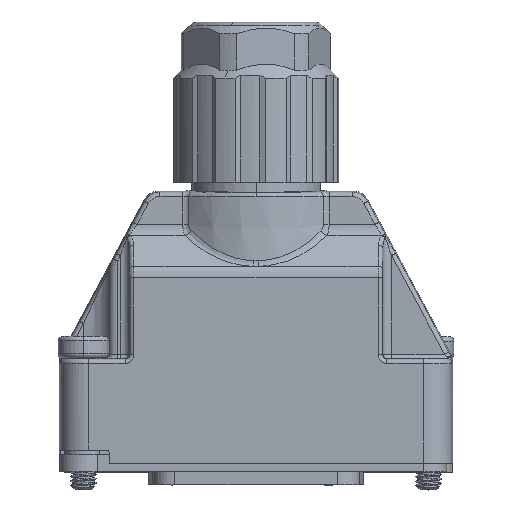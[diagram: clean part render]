
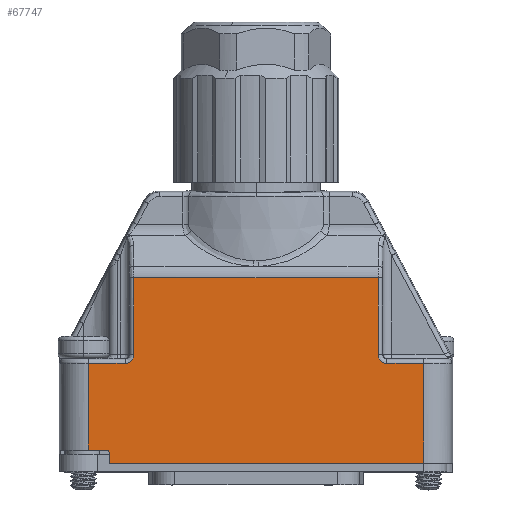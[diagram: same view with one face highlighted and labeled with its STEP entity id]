
A CAD part, top view. The second image highlights one B-rep face of the part: STEP entity #67747.
In plain terms, the highlighted planar face has unit normal (0, 0, 1).
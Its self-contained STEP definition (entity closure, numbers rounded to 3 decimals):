
#1423 = CARTESIAN_POINT ( 'NONE',  ( 81.502, 152.092, 126.657 ) ) ;
#2200 = CARTESIAN_POINT ( 'NONE',  ( 81.214, 152.804, 126.657 ) ) ;
#2245 = LINE ( 'NONE', #33027, #48823 ) ;
#3648 = EDGE_CURVE ( 'NONE', #72495, #42526, #64959, .T. ) ;
#3973 = AXIS2_PLACEMENT_3D ( 'NONE', #57565, #14254, #39241 ) ;
#4146 = CARTESIAN_POINT ( 'NONE',  ( 48.131, 151.804, 126.657 ) ) ;
#4835 = CARTESIAN_POINT ( 'NONE',  ( 53.043, 152.092, 126.657 ) ) ;
#5355 = CARTESIAN_POINT ( 'NONE',  ( 52.462, 151.804, 126.657 ) ) ;
#5399 = EDGE_CURVE ( 'NONE', #77398, #5451, #2245, .T. ) ;
#5451 = VERTEX_POINT ( 'NONE', #10191 ) ;
#5759 = LINE ( 'NONE', #51603, #20910 ) ;
#7106 = CARTESIAN_POINT ( 'NONE',  ( 53.331, 140.406, 126.657 ) ) ;
#10191 = CARTESIAN_POINT ( 'NONE',  ( 50.472, 141.906, 126.657 ) ) ;
#10420 = VERTEX_POINT ( 'NONE', #22370 ) ;
#10506 = EDGE_CURVE ( 'NONE', #56969, #61258, #66217, .T. ) ;
#10706 = EDGE_CURVE ( 'NONE', #48770, #10420, #35413, .T. ) ;
#11193 = CARTESIAN_POINT ( 'NONE',  ( 50.472, 141.906, 126.657 ) ) ;
#13501 = CARTESIAN_POINT ( 'NONE',  ( 52.331, 151.804, 126.657 ) ) ;
#13880 = CARTESIAN_POINT ( 'NONE',  ( 81.254, 152.477, 126.657 ) ) ;
#14254 = DIRECTION ( 'NONE',  ( 0., 0., -1. ) ) ;
#14376 = ORIENTED_EDGE ( 'NONE', *, *, #37586, .F. ) ;
#14405 = CARTESIAN_POINT ( 'NONE',  ( 81.655, 151.968, 126.657 ) ) ;
#16821 = LINE ( 'NONE', #24352, #58658 ) ;
#17357 = VECTOR ( 'NONE', #41254, 1000. ) ;
#18078 = DIRECTION ( 'NONE',  ( -1., 0., 0. ) ) ;
#18824 = LINE ( 'NONE', #32713, #67312 ) ;
#19198 = VECTOR ( 'NONE', #18078, 1000. ) ;
#20007 = CARTESIAN_POINT ( 'NONE',  ( 81.887, 151.844, 126.657 ) ) ;
#20907 = PLANE ( 'NONE',  #3973 ) ;
#20910 = VECTOR ( 'NONE', #32730, 1000. ) ;
#22370 = CARTESIAN_POINT ( 'NONE',  ( 50.551, 140.406, 126.657 ) ) ;
#23194 = DIRECTION ( 'NONE',  ( 1., 0., 0. ) ) ;
#24352 = CARTESIAN_POINT ( 'NONE',  ( 67.276, 161.598, 126.657 ) ) ;
#24522 = CARTESIAN_POINT ( 'NONE',  ( 48.131, 140.406, 126.657 ) ) ;
#25627 = ORIENTED_EDGE ( 'NONE', *, *, #10706, .F. ) ;
#25761 = CARTESIAN_POINT ( 'NONE',  ( 81.214, 161.598, 126.657 ) ) ;
#26612 = CARTESIAN_POINT ( 'NONE',  ( 53.331, 152.804, 126.657 ) ) ;
#28323 = LINE ( 'NONE', #78067, #40701 ) ;
#29015 = CARTESIAN_POINT ( 'NONE',  ( 52.89, 151.968, 126.657 ) ) ;
#29418 = ORIENTED_EDGE ( 'NONE', *, *, #53335, .F. ) ;
#30436 = LINE ( 'NONE', #7106, #44679 ) ;
#31977 = CARTESIAN_POINT ( 'NONE',  ( 81.214, 152.673, 126.657 ) ) ;
#32713 = CARTESIAN_POINT ( 'NONE',  ( 81.214, 140.406, 126.657 ) ) ;
#32730 = DIRECTION ( 'NONE',  ( 0., -1., 0. ) ) ;
#32973 = DIRECTION ( 'NONE',  ( 0., -1., 0. ) ) ;
#33027 = CARTESIAN_POINT ( 'NONE',  ( 67.272, 141.906, 126.657 ) ) ;
#33567 = EDGE_CURVE ( 'NONE', #61258, #74356, #30436, .T. ) ;
#34030 = CARTESIAN_POINT ( 'NONE',  ( 53.331, 161.598, 126.657 ) ) ;
#35159 = VERTEX_POINT ( 'NONE', #61553 ) ;
#35413 = LINE ( 'NONE', #42289, #19198 ) ;
#36559 = EDGE_CURVE ( 'NONE', #42526, #35159, #28323, .T. ) ;
#37586 = EDGE_CURVE ( 'NONE', #74356, #39933, #16821, .T. ) ;
#38602 = DIRECTION ( 'NONE',  ( 1., 0., 0. ) ) ;
#38866 = ORIENTED_EDGE ( 'NONE', *, *, #33567, .F. ) ;
#39241 = DIRECTION ( 'NONE',  ( -1., 0., 0. ) ) ;
#39933 = VERTEX_POINT ( 'NONE', #25761 ) ;
#40701 = VECTOR ( 'NONE', #59737, 1000. ) ;
#40722 = CARTESIAN_POINT ( 'NONE',  ( 53.331, 152.673, 126.657 ) ) ;
#41254 = DIRECTION ( 'NONE',  ( -0.052, 0.999, 0. ) ) ;
#42289 = CARTESIAN_POINT ( 'NONE',  ( 67.276, 140.406, 126.657 ) ) ;
#42372 = DIRECTION ( 'NONE',  ( 0., 1., 0. ) ) ;
#42526 = VERTEX_POINT ( 'NONE', #76487 ) ;
#43333 = ORIENTED_EDGE ( 'NONE', *, *, #36559, .F. ) ;
#44679 = VECTOR ( 'NONE', #49326, 1000. ) ;
#45244 = ORIENTED_EDGE ( 'NONE', *, *, #59398, .F. ) ;
#47616 = CARTESIAN_POINT ( 'NONE',  ( 67.276, 151.804, 126.657 ) ) ;
#48770 = VERTEX_POINT ( 'NONE', #59096 ) ;
#48823 = VECTOR ( 'NONE', #38602, 1000. ) ;
#49326 = DIRECTION ( 'NONE',  ( 0., 1., 0. ) ) ;
#49619 = LINE ( 'NONE', #11193, #17357 ) ;
#49659 = VECTOR ( 'NONE', #23194, 1000. ) ;
#51603 = CARTESIAN_POINT ( 'NONE',  ( 86.414, 140.406, 126.657 ) ) ;
#53264 = ORIENTED_EDGE ( 'NONE', *, *, #56054, .F. ) ;
#53335 = EDGE_CURVE ( 'NONE', #10420, #5451, #49619, .T. ) ;
#53438 = CARTESIAN_POINT ( 'NONE',  ( 53.29, 152.477, 126.657 ) ) ;
#53946 = VERTEX_POINT ( 'NONE', #4146 ) ;
#54278 = EDGE_CURVE ( 'NONE', #77398, #53946, #77208, .T. ) ;
#56054 = EDGE_CURVE ( 'NONE', #35159, #48770, #5759, .T. ) ;
#56391 = CARTESIAN_POINT ( 'NONE',  ( 81.377, 152.245, 126.657 ) ) ;
#56969 = VERTEX_POINT ( 'NONE', #13501 ) ;
#57565 = CARTESIAN_POINT ( 'NONE',  ( 67.276, 140.406, 126.657 ) ) ;
#58658 = VECTOR ( 'NONE', #60243, 1000. ) ;
#59096 = CARTESIAN_POINT ( 'NONE',  ( 86.414, 140.406, 126.657 ) ) ;
#59164 = ORIENTED_EDGE ( 'NONE', *, *, #10506, .F. ) ;
#59290 = CARTESIAN_POINT ( 'NONE',  ( 52.331, 151.804, 126.657 ) ) ;
#59398 = EDGE_CURVE ( 'NONE', #39933, #72495, #18824, .T. ) ;
#59737 = DIRECTION ( 'NONE',  ( 1., 0., 0. ) ) ;
#59989 = CARTESIAN_POINT ( 'NONE',  ( 48.131, 141.906, 126.657 ) ) ;
#60243 = DIRECTION ( 'NONE',  ( 1., 0., 0. ) ) ;
#61136 = LINE ( 'NONE', #47616, #49659 ) ;
#61258 = VERTEX_POINT ( 'NONE', #26612 ) ;
#61553 = CARTESIAN_POINT ( 'NONE',  ( 86.414, 151.804, 126.657 ) ) ;
#62028 = FACE_OUTER_BOUND ( 'NONE', #73251, .T. ) ;
#62836 = VECTOR ( 'NONE', #42372, 1000. ) ;
#63053 = CARTESIAN_POINT ( 'NONE',  ( 82.082, 151.804, 126.657 ) ) ;
#64482 = ORIENTED_EDGE ( 'NONE', *, *, #5399, .T. ) ;
#64959 = B_SPLINE_CURVE_WITH_KNOTS ( 'NONE', 3,
 ( #2200, #31977, #13880, #56391, #1423, #14405, #20007, #63053, #74232 ),
 .UNSPECIFIED., .F., .F.,
 ( 4, 1, 1, 1, 1, 1, 4 ),
 ( 0., 0.25, 0.375, 0.5, 0.625, 0.75, 1. ),
 .UNSPECIFIED. ) ;
#65401 = CARTESIAN_POINT ( 'NONE',  ( 52.658, 151.844, 126.657 ) ) ;
#66217 = B_SPLINE_CURVE_WITH_KNOTS ( 'NONE', 3,
 ( #59290, #5355, #65401, #29015, #4835, #77625, #53438, #40722, #71522 ),
 .UNSPECIFIED., .F., .F.,
 ( 4, 1, 1, 1, 1, 1, 4 ),
 ( 0., 0.25, 0.375, 0.5, 0.625, 0.75, 1. ),
 .UNSPECIFIED. ) ;
#66221 = ORIENTED_EDGE ( 'NONE', *, *, #3648, .F. ) ;
#67312 = VECTOR ( 'NONE', #32973, 1000. ) ;
#67747 = ADVANCED_FACE ( 'NONE', ( #62028 ), #20907, .F. ) ;
#68348 = ORIENTED_EDGE ( 'NONE', *, *, #68650, .F. ) ;
#68650 = EDGE_CURVE ( 'NONE', #53946, #56969, #61136, .T. ) ;
#71082 = CARTESIAN_POINT ( 'NONE',  ( 81.214, 152.804, 126.657 ) ) ;
#71522 = CARTESIAN_POINT ( 'NONE',  ( 53.331, 152.804, 126.657 ) ) ;
#72495 = VERTEX_POINT ( 'NONE', #71082 ) ;
#73251 = EDGE_LOOP ( 'NONE', ( #64482, #29418, #25627, #53264, #43333, #66221, #45244, #14376, #38866, #59164, #68348, #77834 ) ) ;
#74232 = CARTESIAN_POINT ( 'NONE',  ( 82.214, 151.804, 126.657 ) ) ;
#74356 = VERTEX_POINT ( 'NONE', #34030 ) ;
#76487 = CARTESIAN_POINT ( 'NONE',  ( 82.214, 151.804, 126.657 ) ) ;
#77208 = LINE ( 'NONE', #24522, #62836 ) ;
#77398 = VERTEX_POINT ( 'NONE', #59989 ) ;
#77625 = CARTESIAN_POINT ( 'NONE',  ( 53.167, 152.245, 126.657 ) ) ;
#77834 = ORIENTED_EDGE ( 'NONE', *, *, #54278, .F. ) ;
#78067 = CARTESIAN_POINT ( 'NONE',  ( 67.276, 151.804, 126.657 ) ) ;
